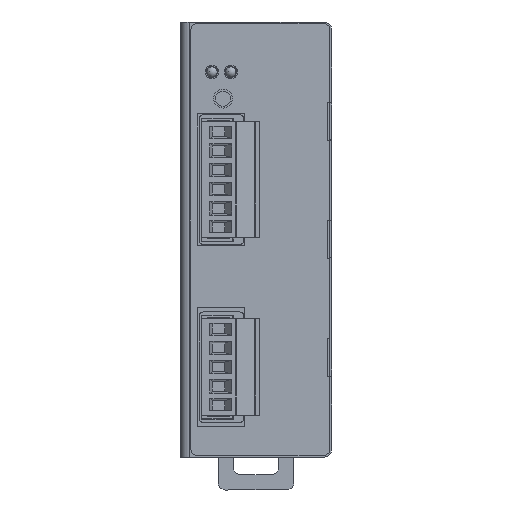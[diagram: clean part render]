
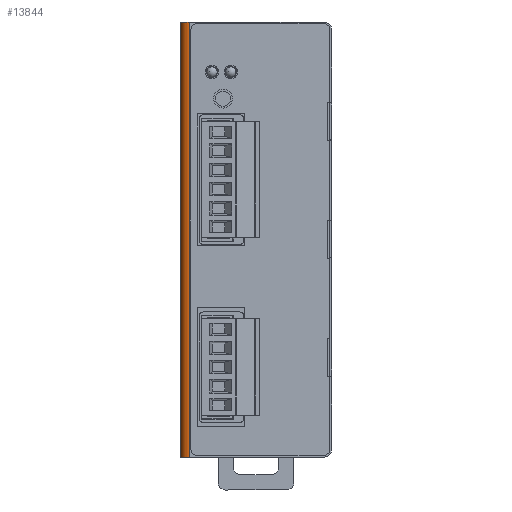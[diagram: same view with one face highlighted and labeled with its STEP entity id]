
A CAD part, left-side view. The second image highlights one B-rep face of the part: STEP entity #13844.
In plain terms, the highlighted cylindrical face has radius 2.5 mm (diameter 5 mm), a partial arc.
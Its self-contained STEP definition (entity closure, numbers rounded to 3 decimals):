
#3539 = DIRECTION ( 'NONE',  ( 0., 0., -1. ) ) ;
#5475 = CARTESIAN_POINT ( 'NONE',  ( -52.5, 20., 57.5 ) ) ;
#10686 = DIRECTION ( 'NONE',  ( 0., 0., -1. ) ) ;
#13844 = ADVANCED_FACE ( 'NONE', ( #22906 ), #91572, .T. ) ;
#16424 = CARTESIAN_POINT ( 'NONE',  ( -55., 17.5, -57.5 ) ) ;
#18125 = DIRECTION ( 'NONE',  ( 0., 0., 1. ) ) ;
#18225 = VECTOR ( 'NONE', #10686, 1000. ) ;
#18711 = VECTOR ( 'NONE', #18125, 1000. ) ;
#22906 = FACE_OUTER_BOUND ( 'NONE', #30618, .T. ) ;
#29183 = CARTESIAN_POINT ( 'NONE',  ( -55., 17.5, 57.5 ) ) ;
#30061 = VERTEX_POINT ( 'NONE', #29183 ) ;
#30618 = EDGE_LOOP ( 'NONE', ( #56207, #64913, #40283, #52753 ) ) ;
#32637 = CARTESIAN_POINT ( 'NONE',  ( -55., 17.5, 57.5 ) ) ;
#34027 = AXIS2_PLACEMENT_3D ( 'NONE', #80809, #36832, #88076 ) ;
#36832 = DIRECTION ( 'NONE',  ( 0., 0., 1. ) ) ;
#37381 = AXIS2_PLACEMENT_3D ( 'NONE', #47634, #3539, #55014 ) ;
#38212 = LINE ( 'NONE', #32637, #18711 ) ;
#40038 = LINE ( 'NONE', #71662, #18225 ) ;
#40283 = ORIENTED_EDGE ( 'NONE', *, *, #94356, .T. ) ;
#42213 = AXIS2_PLACEMENT_3D ( 'NONE', #46126, #90218, #46760 ) ;
#43459 = EDGE_CURVE ( 'NONE', #64128, #82652, #40038, .T. ) ;
#46126 = CARTESIAN_POINT ( 'NONE',  ( -52.5, 17.5, 57.5 ) ) ;
#46760 = DIRECTION ( 'NONE',  ( 0., 1., 0. ) ) ;
#47634 = CARTESIAN_POINT ( 'NONE',  ( -52.5, 17.5, 57.5 ) ) ;
#52753 = ORIENTED_EDGE ( 'NONE', *, *, #43459, .T. ) ;
#55014 = DIRECTION ( 'NONE',  ( 0., 1., 0. ) ) ;
#56207 = ORIENTED_EDGE ( 'NONE', *, *, #94080, .T. ) ;
#62797 = VERTEX_POINT ( 'NONE', #16424 ) ;
#64128 = VERTEX_POINT ( 'NONE', #5475 ) ;
#64913 = ORIENTED_EDGE ( 'NONE', *, *, #94348, .T. ) ;
#71662 = CARTESIAN_POINT ( 'NONE',  ( -52.5, 20., 57.5 ) ) ;
#80809 = CARTESIAN_POINT ( 'NONE',  ( -52.5, 17.5, -57.5 ) ) ;
#82652 = VERTEX_POINT ( 'NONE', #90274 ) ;
#88076 = DIRECTION ( 'NONE',  ( 0., 1., 0. ) ) ;
#90218 = DIRECTION ( 'NONE',  ( 0., 0., -1. ) ) ;
#90274 = CARTESIAN_POINT ( 'NONE',  ( -52.5, 20., -57.5 ) ) ;
#91572 = CYLINDRICAL_SURFACE ( 'NONE', #42213, 2.5 ) ;
#92011 = CIRCLE ( 'NONE', #34027, 2.5 ) ;
#94080 = EDGE_CURVE ( 'NONE', #82652, #62797, #92011, .T. ) ;
#94189 = CIRCLE ( 'NONE', #37381, 2.5 ) ;
#94348 = EDGE_CURVE ( 'NONE', #62797, #30061, #38212, .T. ) ;
#94356 = EDGE_CURVE ( 'NONE', #30061, #64128, #94189, .T. ) ;
